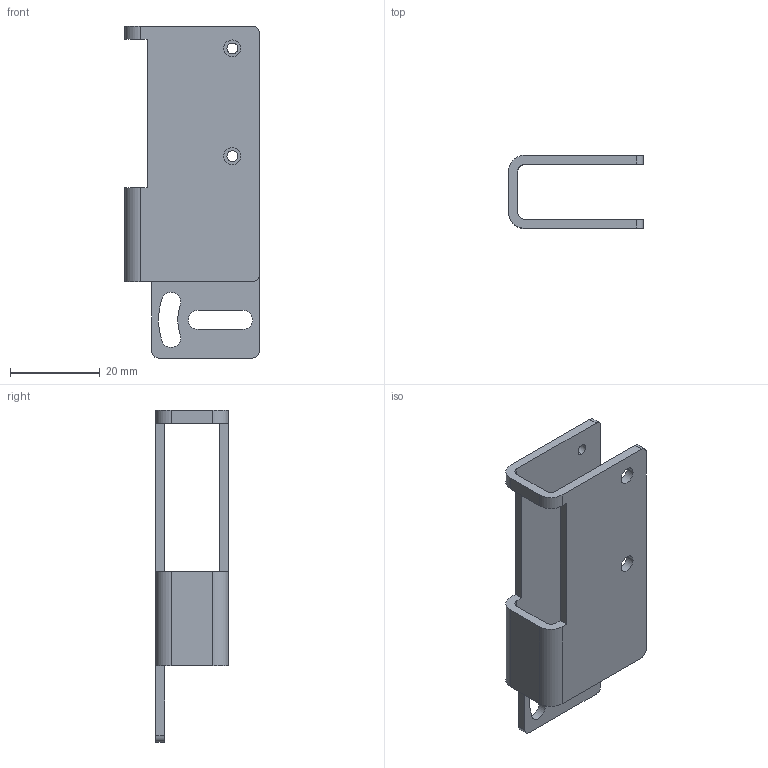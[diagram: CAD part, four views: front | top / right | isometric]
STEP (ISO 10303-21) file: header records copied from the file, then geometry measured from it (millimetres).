
FILE_DESCRIPTION((''),'2;1');
FILE_NAME('15300973_MSP F20-13.stp','2011-10-20T09:32:33',(''),(''),'Mechanical Desktop 2009','Mechanical Desktop 2009',', , ');
FILE_SCHEMA(('CONFIG_CONTROL_DESIGN'));
Length unit declared in the file: millimetre
Products named in the file (2): 04113195; TEIL1
Assembly tree (1 placements, depth 2):
  04113195
    TEIL1
Bounding box: 30 x 16.25 x 74 mm (x, y, z)
Volume: 7198.4 mm3; surface area: 8185.4 mm2
Topology: 1 solids, 1 shells, 47 faces, 141 edges, 94 vertices
Faces by surface type: cylinder 27, plane 20
Entity records: 1746 total; most frequent: DIRECTION 293, CARTESIAN_POINT 284, ORIENTED_EDGE 282, EDGE_CURVE 141, AXIS2_PLACEMENT_3D 103, VERTEX_POINT 94, VECTOR 87, LINE 87
